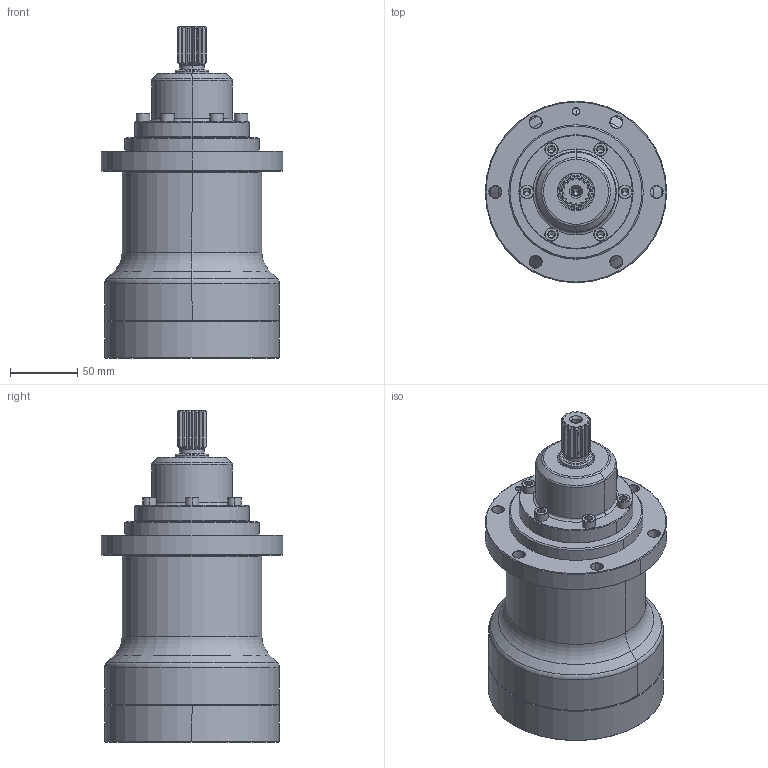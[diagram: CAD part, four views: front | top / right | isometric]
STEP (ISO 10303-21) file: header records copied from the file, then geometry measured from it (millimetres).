
FILE_DESCRIPTION((''),'2;1');
FILE_NAME('M12F25B','2023-10-19T',('HYC'),(''),'PRO/ENGINEER BY PARAMETRIC TECHNOLOGY CORPORATION, 2010280','PRO/ENGINEER BY PARAMETRIC TECHNOLOGY CORPORATION, 2010280','');
FILE_SCHEMA(('CONFIG_CONTROL_DESIGN'));
Length unit declared in the file: millimetre
Products named in the file (1): M12F25B
Bounding box: 135 x 135 x 247 mm (x, y, z)
Surface area: 185427.6 mm2 (no closed solid volume)
Topology: 0 solids, 28 shells, 501 faces, 1254 edges, 757 vertices
Faces by surface type: cone 244, cylinder 124, plane 89, extrusion 26, torus 18
Entity records: 15681 total; most frequent: CARTESIAN_POINT 3908, DIRECTION 2624, ORIENTED_EDGE 2204, EDGE_CURVE 1212, AXIS2_PLACEMENT_3D 1079, VERTEX_POINT 757, CIRCLE 604, EDGE_LOOP 565
